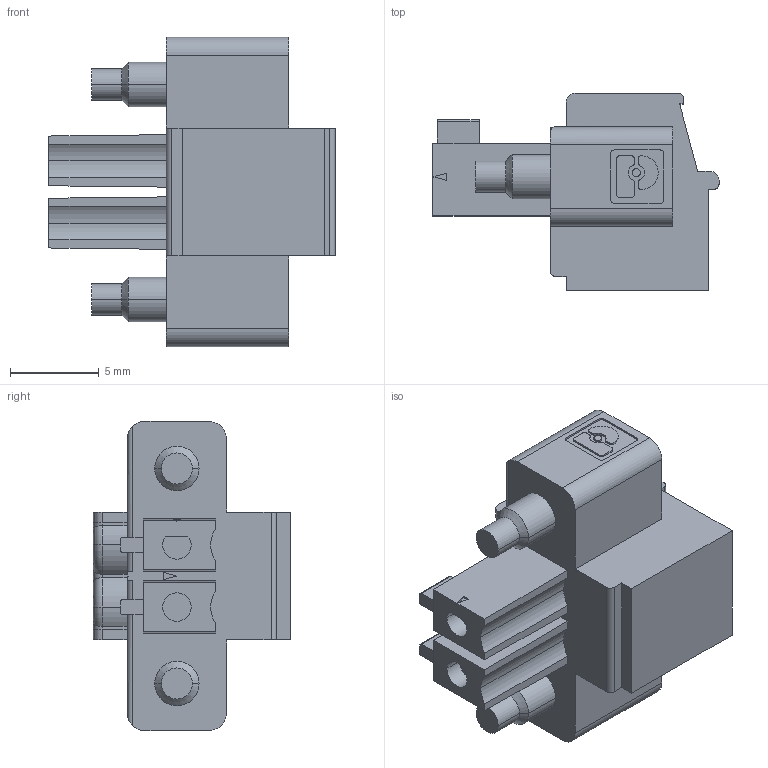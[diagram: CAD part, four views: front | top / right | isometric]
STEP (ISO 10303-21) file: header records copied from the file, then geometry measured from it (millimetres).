
FILE_DESCRIPTION((''),'2;1');
FILE_NAME('CU_NI-9976','2018-02-01T',('dkendric'),(''),'CREO PARAMETRIC BY PTC INC, 2015380','CREO PARAMETRIC BY PTC INC, 2015380','');
FILE_SCHEMA(('CONFIG_CONTROL_DESIGN'));
Length unit declared in the file: inch
Products named in the file (1): CU_NI-9976
Bounding box: 16.1 x 11.1 x 17.4 mm (x, y, z)
Surface area: 1224.7 mm2 (no closed solid volume)
Topology: 0 solids, 5 shells, 250 faces, 667 edges, 440 vertices
Faces by surface type: plane 136, cylinder 90, cone 12, torus 12
Entity records: 7974 total; most frequent: CARTESIAN_POINT 1724, ORIENTED_EDGE 1286, DIRECTION 1273, EDGE_CURVE 667, AXIS2_PLACEMENT_3D 446, VERTEX_POINT 440, VECTOR 381, LINE 381
